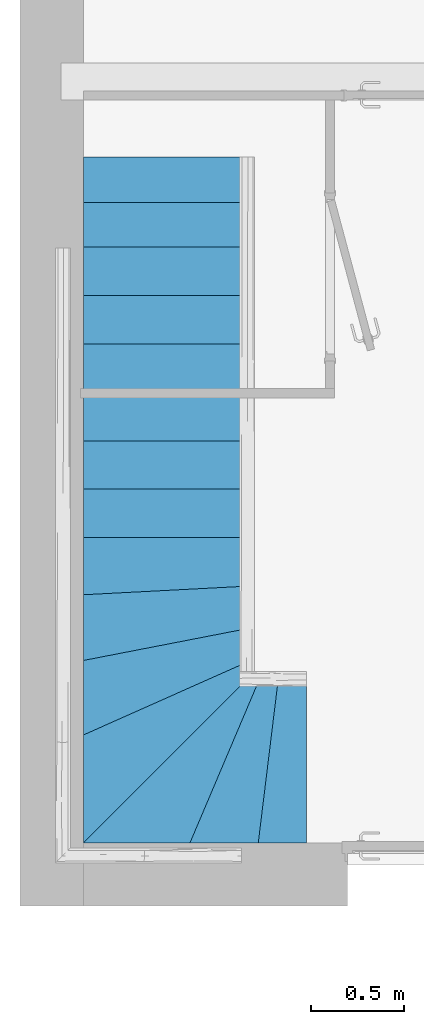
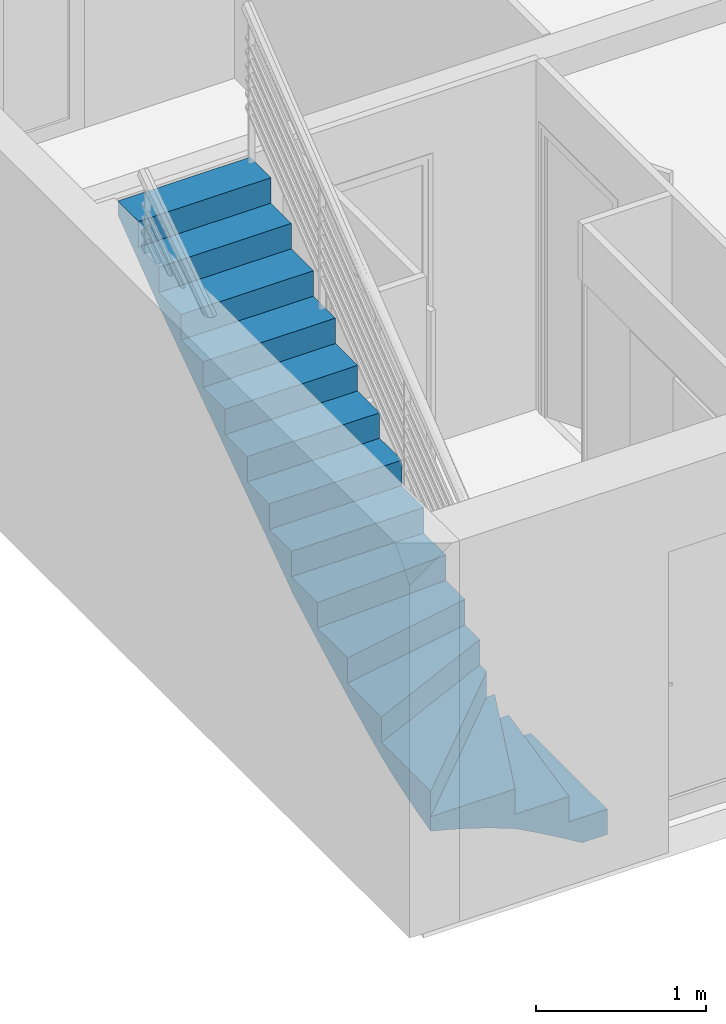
# One storey, part 11 of 12: 1 stair, 1 element without a shape of its own.
"""IFC2X3 building model written with IfcOpenShell, lengths in metres."""

from ifc_helpers import new_model, entity, si_unit, converted_unit, derived_unit, direction, frame, origin, place, context, subcontext, project, spatial, faceted_brep, material, element, aggregate, save


model = new_model("IFC2X3")

# Units and contexts
model_context = context("Model", 3, precision=1e-05, world=origin(), true_north=direction((6.12303176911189e-17, 1.0)))
context_of_model = context(None, 3, precision=1e-05, world=origin(), true_north=direction((6.12303176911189e-17, 1.0)))
body_context = subcontext(model_context, "Body", "Model", "MODEL_VIEW")
ifc_project = project(units=[si_unit("LENGTHUNIT", "METRE"), si_unit("AREAUNIT", "SQUARE_METRE"), si_unit("VOLUMEUNIT", "CUBIC_METRE"), converted_unit("PLANEANGLEUNIT", "DEGREE", entity("IfcRatioMeasure", 0.0174532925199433), si_unit("PLANEANGLEUNIT", "RADIAN"), dimensions=[0, 0, 0, 0, 0, 0, 0]), si_unit("MASSUNIT", "GRAM", prefix="KILO"), si_unit("TIMEUNIT", "SECOND"), si_unit("FREQUENCYUNIT", "HERTZ"), si_unit("THERMODYNAMICTEMPERATUREUNIT", "DEGREE_CELSIUS"), derived_unit("THERMALTRANSMITTANCEUNIT", [(si_unit("MASSUNIT", "GRAM", prefix="KILO"), 1), (si_unit("THERMODYNAMICTEMPERATUREUNIT", "KELVIN"), -1), (si_unit("TIMEUNIT", "SECOND"), -3)]), derived_unit("VOLUMETRICFLOWRATEUNIT", [(si_unit("LENGTHUNIT", "METRE"), 3), (si_unit("TIMEUNIT", "SECOND"), -1)]), si_unit("ELECTRICCURRENTUNIT", "AMPERE"), si_unit("ELECTRICVOLTAGEUNIT", "VOLT"), si_unit("POWERUNIT", "WATT"), si_unit("FORCEUNIT", "NEWTON", prefix="KILO"), si_unit("ILLUMINANCEUNIT", "LUX"), si_unit("LUMINOUSFLUXUNIT", "LUMEN"), si_unit("LUMINOUSINTENSITYUNIT", "CANDELA"), derived_unit("USERDEFINED", [(si_unit("MASSUNIT", "GRAM", prefix="KILO"), -1), (si_unit("LENGTHUNIT", "METRE"), -2), (si_unit("TIMEUNIT", "SECOND"), 3), (si_unit("LUMINOUSFLUXUNIT", "LUMEN"), 1)]), derived_unit("LINEARVELOCITYUNIT", [(si_unit("LENGTHUNIT", "METRE"), 1), (si_unit("TIMEUNIT", "SECOND"), -1)]), si_unit("PRESSUREUNIT", "PASCAL"), derived_unit("USERDEFINED", [(si_unit("LENGTHUNIT", "METRE"), -2), (si_unit("MASSUNIT", "GRAM", prefix="KILO"), 1), (si_unit("TIMEUNIT", "SECOND"), -2)])], contexts=[model_context, context_of_model])

# Site, building, storey
site_placement = place(None, origin())
site = spatial("IfcSite", under=ifc_project, at=site_placement, Name="Surface", CompositionType="ELEMENT")
building_placement = place(site_placement, origin())
building = spatial("IfcBuilding", under=site, at=building_placement, CompositionType="ELEMENT")
storey_placement = place(building_placement, origin())
storey = spatial("IfcBuildingStorey", under=building, at=storey_placement, Name="Rez de chaussée", CompositionType="ELEMENT", Elevation=0.0)

# Stairs
stair_1_placement = place(storey_placement, frame((-11.297684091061, -2.47733948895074, -0.0015952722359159)))
stair_1 = element("IfcStair", 1, at=stair_1_placement, inside=storey, Name="Escalier:Monobloc", ObjectType="Escalier:Monobloc", ShapeType="NOTDEFINED")
ifc_material = material(Name="Maçonnerie - Béton")
stair_2_placement = place(stair_1_placement, origin())
stair_2 = element("IfcStair", 2, at=stair_2_placement, material=ifc_material, Name="Escalier:Monobloc", ObjectType="Escalier:Monobloc", ShapeType="NOTDEFINED", context=body_context, shape_type="Brep", body=[
    faceted_brep([(0.57472555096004, 0.00159527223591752, 0.262732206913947), (0.504661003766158, 0.00159527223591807, 0.290123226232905), (0.601958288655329, 0.065751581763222, 0.262732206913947), (0.901595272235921, 0.939595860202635, 0.495475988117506), (0.764378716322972, 0.845510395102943, 0.519122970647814), (0.901595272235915, 0.955108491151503, 0.539188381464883), (0.55785241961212, 0.168258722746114, 0.303080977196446), (0.732897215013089, 0.504705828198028, 0.304501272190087), (0.819948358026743, 0.57930400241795, 0.262732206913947), (0.792587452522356, 0.514845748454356, 0.262732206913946), (0.765354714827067, 0.450689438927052, 0.262732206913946), (0.738121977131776, 0.386533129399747, 0.262732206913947), (0.432242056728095, 0.772625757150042, 0.628065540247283), (0.510467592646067, 0.807454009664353, 0.628065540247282), (0.588693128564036, 0.842282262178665, 0.628065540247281), (0.494920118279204, 0.742896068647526, 0.584646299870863), (0.354016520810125, 0.737797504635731, 0.628065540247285), (0.358599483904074, 0.222199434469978, 0.398055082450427), (0.476735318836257, 0.190100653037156, 0.343173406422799), (0.29154816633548, 0.00159527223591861, 0.364517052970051), (0.434093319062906, 0.00159527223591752, 0.316253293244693), (0.3630492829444, 0.00159527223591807, 0.34106012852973), (0.656423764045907, 0.194064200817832, 0.262732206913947), (0.629191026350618, 0.129907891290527, 0.262732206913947), (0.683656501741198, 0.258220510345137, 0.262732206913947), (0.902031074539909, 0.77267876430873, 0.262732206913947), (0.834728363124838, 0.688328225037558, 0.299425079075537), (0.940319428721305, 0.901595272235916, 0.312832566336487), (0.901595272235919, 0.901595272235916, 0.410913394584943), (0.922127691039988, 0.901595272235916, 0.362338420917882), (0.783385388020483, 0.730721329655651, 0.383923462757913), (0.219617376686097, 0.00159527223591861, 0.386621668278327), (0.194123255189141, 0.17907130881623, 0.439703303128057), (0.65423499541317, 0.746794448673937, 0.50524235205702), (0.743248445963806, 0.790746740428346, 0.476890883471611), (0.378490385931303, 0.486681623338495, 0.486455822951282), (0.208058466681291, 0.426260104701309, 0.518066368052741), (0.393373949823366, 0.584035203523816, 0.527453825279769), (0.77475001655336, 0.641754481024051, 0.333579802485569), (0.675090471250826, 0.501551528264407, 0.343053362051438), (0.86138203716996, 0.779081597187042, 0.329306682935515), (0.13623329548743, 0.248676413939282, 0.477056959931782), (0.00159527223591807, 0.222040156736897, 0.503346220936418), (0.0015952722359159, 0.29476053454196, 0.525470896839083), (0.789314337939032, 0.794182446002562, 0.434603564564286), (0.0746037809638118, 0.00159527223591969, 0.42686933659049), (0.147290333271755, 0.00159527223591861, 0.40739327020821), (0.874670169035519, 0.708220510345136, 0.262732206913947), (0.84730926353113, 0.643762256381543, 0.262732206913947), (0.317195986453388, 0.350437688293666, 0.454677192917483), (0.823369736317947, 0.946767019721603, 0.628065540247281), (0.716693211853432, 0.872744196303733, 0.592739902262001), (0.666918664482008, 0.877110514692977, 0.628065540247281), (0.745144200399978, 0.91193876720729, 0.628065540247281), (0.956752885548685, 0.901595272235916, 0.262732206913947), (0.929391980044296, 0.837137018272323, 0.262732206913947), (0.791259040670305, 0.893652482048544, 0.561272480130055), (0.658224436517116, 0.659794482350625, 0.437901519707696), (0.678638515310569, 0.585185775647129, 0.379757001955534), (0.613662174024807, 0.331672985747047, 0.31924231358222), (0.578573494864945, 0.437215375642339, 0.374168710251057), (0.449686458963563, 0.379649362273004, 0.41395128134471), (0.489688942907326, 0.50444016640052, 0.44765446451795), (0.710889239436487, 0.322376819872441, 0.262732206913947), (0.475307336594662, 0.30855872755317, 0.378275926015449), (0.55735873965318, 0.643208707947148, 0.488220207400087), (0.232765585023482, 0.358354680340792, 0.485332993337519), (0.901595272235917, 0.968980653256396, 0.583455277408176), (0.0015952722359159, 0.0754166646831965, 0.463214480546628), (0.00159527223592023, 0.148911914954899, 0.482609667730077), (0.523700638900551, 0.701439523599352, 0.543055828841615), (0.277554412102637, 0.605475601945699, 0.576430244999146), (0.578442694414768, 0.523093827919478, 0.411219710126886), (0.136108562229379, 0.527272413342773, 0.577980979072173), (0.00159527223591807, 0.36703479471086, 0.549012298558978), (0.00159527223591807, 0.438829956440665, 0.573976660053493), (0.00159527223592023, 0.51012144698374, 0.600344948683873), (0.00159527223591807, 0.58088945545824, 0.62806554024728), (0.0669186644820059, 0.609973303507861, 0.628065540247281), (0.197565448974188, 0.6681409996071, 0.62806554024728), (0.275790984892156, 0.702969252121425, 0.628065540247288), (0.132242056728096, 0.639057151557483, 0.628065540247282), (0.901595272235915, 0.921954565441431, 0.452585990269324), (0.65469157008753, 0.808963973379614, 0.561457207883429), (0.901595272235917, 0.981595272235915, 0.62806554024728), (0.0015952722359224, 0.00159527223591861, 0.445100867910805), (0.00159527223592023, 1.64159527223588, 1.18249171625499), (0.901595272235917, 1.64159527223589, 1.18249171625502), (0.901595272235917, 1.64159527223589, 1.17606554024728), (0.45159527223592, 1.64159527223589, 1.17606554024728), (0.00159527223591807, 1.64159527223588, 1.17606554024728), (0.00159527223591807, 1.52527025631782, 1.11223698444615), (0.455413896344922, 1.50325919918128, 1.08238395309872), (0.0015952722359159, 0.701145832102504, 0.684197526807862), (0.364566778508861, 1.19158970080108, 0.889221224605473), (0.441131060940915, 1.30419657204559, 0.951115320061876), (0.901595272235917, 1.3541099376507, 0.925460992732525), (0.00159527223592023, 1.05748724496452, 0.861515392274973), (0.00159527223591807, 1.17504843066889, 0.923069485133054), (0.438643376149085, 0.910195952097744, 0.705584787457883), (0.901595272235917, 1.42648379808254, 0.987538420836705), (0.392720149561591, 1.39843754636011, 1.01709821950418), (0.901595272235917, 1.4984267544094, 1.05010521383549), (0.901595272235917, 1.20757274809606, 0.803440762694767), (0.901595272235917, 1.13317758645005, 0.743817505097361), (0.348668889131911, 0.983440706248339, 0.766902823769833), (0.00159527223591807, 0.820627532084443, 0.741915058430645), (0.0015952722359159, 0.939384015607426, 0.801074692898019), (0.901595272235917, 1.05787997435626, 0.685310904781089), (0.438867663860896, 1.10851896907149, 0.826118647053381), (0.00159527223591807, 1.29212060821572, 0.985515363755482), (0.00159527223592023, 1.40881963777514, 1.04864399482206), (0.901595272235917, 1.28116853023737, 0.864031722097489), (0.901595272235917, 1.570080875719, 1.11300047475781), (0.0015952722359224, 3.20159527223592, 2.27849171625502), (0.901595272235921, 3.20159527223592, 2.27849171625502), (1.0515952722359, 0.901595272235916, 0.184261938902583), (0.941595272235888, 0.00159527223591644, 0.184261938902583), (1.20159527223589, 0.00159527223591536, 0.184261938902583), (1.20159527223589, 0.901595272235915, 0.184261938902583), (0.57472555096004, 0.00159527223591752, 0.366928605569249), (0.941595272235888, 0.00159527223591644, 0.366928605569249), (1.0515952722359, 0.901595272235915, 0.366928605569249), (0.956752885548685, 0.901595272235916, 0.366928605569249), (0.00159527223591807, 0.00159527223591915, 0.549595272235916), (0.57472555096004, 0.00159527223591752, 0.549595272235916), (0.956752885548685, 0.901595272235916, 0.549595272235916), (0.901595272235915, 0.901595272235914, 0.549595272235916), (0.901595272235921, 3.44159527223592, 2.55892860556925), (0.0015952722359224, 3.44159527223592, 2.55892860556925), (0.0015952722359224, 3.20159527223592, 2.55892860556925), (0.901595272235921, 3.20159527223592, 2.55892860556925), (0.901595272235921, 3.68542903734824, 2.74159527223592), (0.0015952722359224, 3.68542903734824, 2.74159527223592), (0.0015952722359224, 3.44159527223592, 2.74159527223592), (0.901595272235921, 3.44159527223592, 2.74159527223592), (1.07776950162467, 0.401595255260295, 0.0015952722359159), (1.08926879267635, 0.501595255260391, 0.0015952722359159), (1.10076806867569, 0.601595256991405, 0.0015952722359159), (1.11226733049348, 0.701595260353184, 0.0015952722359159), (1.1237665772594, 0.801595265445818, 0.0015952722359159), (1.13526580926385, 0.901595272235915, 0.0015952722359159), (1.20159527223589, 0.901595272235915, 0.0015952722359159), (1.20159527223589, 0.00159527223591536, 0.0015952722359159), (1.03177218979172, 0.0015952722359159, 0.0015952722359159), (1.04327153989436, 0.101595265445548, 0.0015952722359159), (1.0547708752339, 0.201595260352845, 0.0015952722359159), (1.06627019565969, 0.301595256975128, 0.0015952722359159), (0.967417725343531, 0.00159527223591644, 0.0405202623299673), (0.973690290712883, 0.236649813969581, 0.0625937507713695), (0.902832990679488, 0.00159527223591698, 0.0790606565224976), (0.903766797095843, 0.259113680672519, 0.115431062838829), (0.988708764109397, 0.466992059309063, 0.0862027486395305), (0.994124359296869, 0.901595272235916, 0.211630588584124), (0.954616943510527, 0.676152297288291, 0.169192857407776), (0.881653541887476, 0.592684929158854, 0.212865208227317), (0.837962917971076, 0.00159527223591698, 0.117117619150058), (0.772757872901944, 0.00159527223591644, 0.154596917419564), (0.881441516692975, 0.44525359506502, 0.170874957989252), (1.10088719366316, 0.901595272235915, 0.0547096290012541), (1.06601752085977, 0.901595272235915, 0.107498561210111), (0.707174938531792, 0.00159527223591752, 0.19141053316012), (0.786735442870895, 0.330030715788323, 0.212894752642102), (0.64117864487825, 0.00159527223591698, 0.227477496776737), (1.03048634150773, 0.901595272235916, 0.159847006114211), (0.00159527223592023, 3.20159527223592, 2.27601755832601), (0.0015952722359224, 3.68542903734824, 2.64135089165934), (0.901595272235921, 3.68542903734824, 2.64135089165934), (0.901595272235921, 3.20159527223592, 2.27601755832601), (0.0015952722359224, 3.20159527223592, 2.37626193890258), (0.901595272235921, 3.20159527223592, 2.37626193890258), (0.901595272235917, 0.901595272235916, 0.732261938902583), (0.901595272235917, 0.981595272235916, 0.732261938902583), (0.00159527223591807, 0.580889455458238, 0.732261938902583), (0.00159527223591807, 0.00159527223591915, 0.732261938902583), (0.00159527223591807, 0.580889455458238, 0.914928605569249), (0.00159527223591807, 0.98125338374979, 0.914928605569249), (0.00159527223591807, 0.98125338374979, 1.09759527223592), (0.00159527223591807, 1.33442827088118, 1.09759527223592), (0.00159527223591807, 1.33442827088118, 1.28026193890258), (0.00159527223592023, 1.64159527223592, 1.28026193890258), (0.00159527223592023, 1.64159527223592, 1.46292860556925), (0.00159527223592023, 1.90159527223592, 1.46292860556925), (0.00159527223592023, 1.90159527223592, 1.64559527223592), (0.00159527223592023, 2.16159527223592, 1.64559527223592), (0.00159527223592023, 2.16159527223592, 1.82826193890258), (0.00159527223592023, 2.42159527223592, 1.82826193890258), (0.00159527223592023, 2.42159527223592, 2.01092860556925), (0.00159527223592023, 2.68159527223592, 2.01092860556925), (0.00159527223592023, 2.68159527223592, 2.19359527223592), (0.00159527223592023, 2.94159527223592, 2.19359527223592), (0.00159527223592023, 2.94159527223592, 2.37626193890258), (0.901595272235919, 2.42159527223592, 1.82826193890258), (0.901595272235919, 2.16159527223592, 1.82826193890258), (0.901595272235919, 2.16159527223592, 1.64559527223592), (0.901595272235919, 1.90159527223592, 1.64559527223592), (0.901595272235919, 1.90159527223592, 1.46292860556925), (0.901595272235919, 1.64159527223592, 1.46292860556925), (0.901595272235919, 1.64159527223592, 1.28026193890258), (0.901595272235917, 1.38159527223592, 1.28026193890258), (0.901595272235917, 1.38159527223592, 1.09759527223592), (0.901595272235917, 1.15619566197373, 1.09759527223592), (0.901595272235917, 1.15619566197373, 0.914928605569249), (0.901595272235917, 0.981595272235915, 0.914928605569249), (0.901595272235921, 2.94159527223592, 2.37626193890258), (0.901595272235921, 2.94159527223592, 2.19359527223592), (0.901595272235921, 2.68159527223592, 2.19359527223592), (0.901595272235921, 2.68159527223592, 2.01092860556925), (0.901595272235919, 2.42159527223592, 2.01092860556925)], [[[0, 1, 2]], [[3, 4, 5]], [[1, 6, 2]], [[7, 8, 9, 10, 11]], [[12, 13, 14, 15, 16]], [[17, 18, 19]], [[6, 1, 20]], [[21, 18, 20]], [[18, 6, 20]], [[22, 23, 2, 6, 24]], [[25, 26, 27]], [[28, 29, 30]], [[31, 32, 17]], [[33, 4, 34]], [[35, 36, 37]], [[38, 7, 39]], [[30, 29, 40]], [[41, 42, 43]], [[30, 44, 28]], [[45, 32, 46]], [[25, 47, 48, 8, 26]], [[49, 32, 41]], [[50, 51, 14, 52, 53]], [[27, 54, 55, 25]], [[4, 56, 5]], [[34, 44, 57]], [[8, 7, 26]], [[38, 39, 58]], [[39, 59, 60]], [[61, 49, 62]], [[24, 59, 11, 63]], [[7, 38, 26]], [[19, 31, 17]], [[7, 11, 59]], [[27, 26, 40]], [[59, 18, 64]], [[65, 62, 35]], [[66, 49, 41]], [[56, 67, 5]], [[41, 68, 69]], [[67, 56, 51]], [[15, 70, 71]], [[40, 26, 38]], [[36, 41, 43]], [[69, 42, 41]], [[16, 15, 71]], [[61, 62, 72]], [[68, 41, 32]], [[73, 74, 75]], [[64, 17, 61]], [[43, 74, 36]], [[65, 34, 57]], [[37, 71, 70]], [[76, 77, 78]], [[79, 80, 16, 71]], [[46, 32, 31]], [[81, 79, 73, 78]], [[30, 38, 58]], [[71, 73, 79]], [[44, 34, 82]], [[75, 76, 73]], [[30, 40, 38]], [[82, 28, 44]], [[36, 74, 73]], [[82, 34, 3]], [[83, 51, 56]], [[73, 76, 78]], [[68, 32, 45]], [[37, 36, 71]], [[4, 3, 34]], [[14, 51, 15]], [[15, 51, 83]], [[15, 83, 70]], [[50, 84, 67]], [[17, 32, 49]], [[19, 18, 21]], [[50, 67, 51]], [[36, 73, 71]], [[62, 65, 57]], [[44, 30, 57]], [[56, 4, 83]], [[68, 45, 85]], [[29, 27, 40]], [[33, 34, 65]], [[57, 58, 72]], [[35, 62, 49]], [[33, 83, 4]], [[65, 37, 70]], [[59, 39, 7]], [[39, 60, 58]], [[72, 58, 60]], [[57, 30, 58]], [[60, 64, 61]], [[57, 72, 62]], [[60, 61, 72]], [[49, 61, 17]], [[18, 59, 6]], [[6, 59, 24]], [[59, 64, 60]], [[18, 17, 64]], [[35, 49, 66]], [[65, 35, 37]], [[65, 70, 33]], [[83, 33, 70]], [[41, 36, 66]], [[35, 66, 36]], [[86, 87, 88, 89, 90]], [[91, 89, 92]], [[78, 77, 93, 80, 79, 81]], [[94, 95, 96]], [[97, 98, 94]], [[80, 93, 99]], [[16, 80, 99, 52, 14, 13, 12]], [[100, 101, 102]], [[103, 104, 105]], [[106, 107, 105]], [[53, 52, 108, 84, 50]], [[105, 109, 103]], [[110, 111, 101]], [[101, 92, 102]], [[108, 52, 99]], [[93, 106, 99]], [[105, 107, 109]], [[96, 112, 94]], [[94, 98, 95]], [[88, 113, 89]], [[110, 101, 95]], [[107, 97, 109]], [[101, 111, 92]], [[97, 94, 109]], [[90, 89, 91]], [[106, 105, 99]], [[91, 92, 111]], [[98, 110, 95]], [[104, 99, 105]], [[109, 112, 103]], [[94, 112, 109]], [[100, 96, 95]], [[95, 101, 100]], [[113, 102, 92]], [[92, 89, 113]], [[104, 108, 99]], [[86, 114, 115, 87]], [[116, 117, 118, 119]], [[120, 121, 122, 123]], [[124, 125, 126, 127]], [[128, 129, 130, 131]], [[132, 133, 134, 135]], [[136, 137, 138, 139, 140, 141, 142, 143, 144, 145, 146, 147]], [[148, 146, 145]], [[149, 148, 150]], [[145, 144, 148]], [[151, 152, 149]], [[153, 154, 155]], [[150, 156, 151]], [[149, 147, 146]], [[157, 158, 151]], [[139, 138, 159]], [[141, 140, 159]], [[139, 159, 140]], [[136, 152, 137]], [[159, 138, 152]], [[151, 149, 150]], [[159, 152, 160]], [[152, 138, 137]], [[157, 161, 162]], [[22, 162, 163]], [[149, 152, 136]], [[9, 155, 162]], [[63, 11, 10, 9, 162, 22, 24]], [[162, 161, 163]], [[0, 2, 23, 22, 163]], [[136, 147, 149]], [[160, 152, 154]], [[158, 154, 152]], [[154, 153, 164]], [[157, 151, 156]], [[155, 9, 8, 48, 47, 25]], [[157, 162, 158]], [[155, 158, 162]], [[158, 155, 154]], [[146, 148, 149]], [[158, 152, 151]], [[154, 164, 160]], [[55, 54, 153, 25]], [[25, 153, 155]], [[165, 166, 167, 168]], [[165, 168, 115, 114]], [[131, 130, 169, 170]], [[124, 85, 45, 46, 31, 19, 21, 20, 1, 0, 163, 161, 157, 156, 150, 148, 144, 143, 118, 117, 121, 120, 125]], [[119, 118, 143, 142]], [[126, 123, 122, 116, 119, 142, 141, 159, 160, 164, 153, 54, 27, 29, 28, 127]], [[122, 121, 117, 116]], [[126, 125, 120, 123]], [[171, 172, 173, 174]], [[133, 166, 165, 114, 86, 90, 91, 111, 110, 98, 97, 107, 106, 93, 77, 76, 75, 74, 43, 42, 69, 68, 85, 124, 174, 173, 175, 176, 177, 178, 179, 180, 181, 182, 183, 184, 185, 186, 187, 188, 189, 190, 191, 169, 130, 129, 134]], [[171, 174, 124, 127]], [[192, 193, 194, 195, 196, 197, 198, 199, 200, 201, 202, 203, 172, 171, 127, 28, 82, 3, 5, 67, 84, 108, 104, 103, 112, 96, 100, 102, 113, 88, 87, 115, 168, 167, 132, 135, 128, 131, 170, 204, 205, 206, 207, 208]], [[203, 202, 176, 175]], [[203, 175, 173, 172]], [[200, 178, 177, 201]], [[201, 177, 176, 202]], [[198, 180, 179, 199]], [[199, 179, 178, 200]], [[196, 182, 181, 197]], [[197, 181, 180, 198]], [[194, 184, 183, 195]], [[195, 183, 182, 196]], [[192, 186, 185, 193]], [[193, 185, 184, 194]], [[207, 188, 187, 208]], [[208, 187, 186, 192]], [[205, 190, 189, 206]], [[206, 189, 188, 207]], [[170, 169, 191, 204]], [[204, 191, 190, 205]], [[135, 134, 129, 128]], [[133, 132, 167, 166]]]),
])
aggregate(stair_1, [stair_2])

save(model, "model.ifc")
